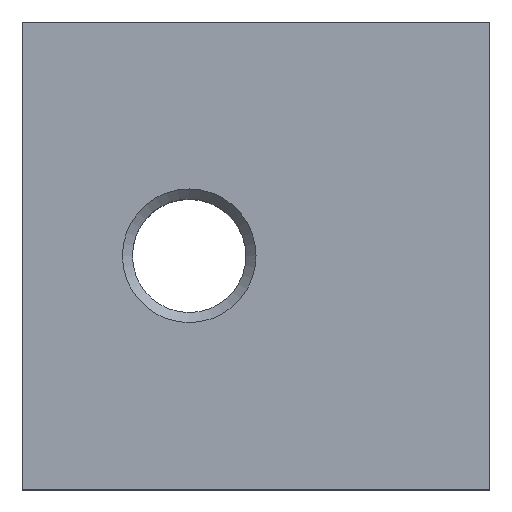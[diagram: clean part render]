
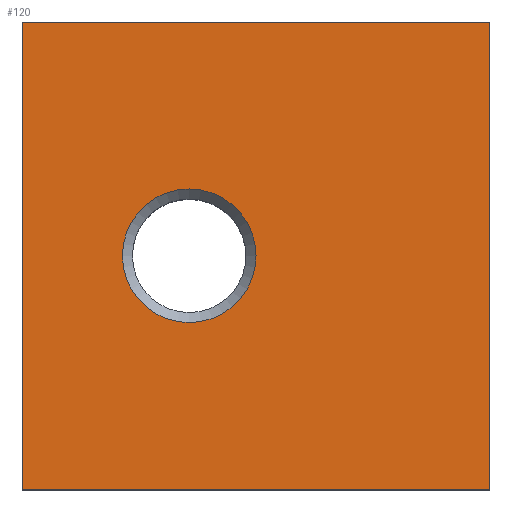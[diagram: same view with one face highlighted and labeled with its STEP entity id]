
A CAD part, top view. The second image highlights one B-rep face of the part: STEP entity #120.
In plain terms, the highlighted planar face has unit normal (0, 0, 1).
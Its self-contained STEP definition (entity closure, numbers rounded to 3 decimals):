
#120=ADVANCED_FACE('',(#165,#166),#135,.T.);
#135=PLANE('',#326);
#141=LINE('',#435,#153);
#142=LINE('',#438,#154);
#143=LINE('',#440,#155);
#144=LINE('',#442,#156);
#153=VECTOR('',#366,1.);
#154=VECTOR('',#367,1.);
#155=VECTOR('',#368,1.);
#156=VECTOR('',#369,1.);
#165=FACE_BOUND('',#190,.T.);
#166=FACE_BOUND('',#191,.T.);
#190=EDGE_LOOP('',(#216));
#191=EDGE_LOOP('',(#217,#218,#219,#220));
#216=ORIENTED_EDGE('',*,*,#280,.T.);
#217=ORIENTED_EDGE('',*,*,#281,.F.);
#218=ORIENTED_EDGE('',*,*,#282,.F.);
#219=ORIENTED_EDGE('',*,*,#283,.F.);
#220=ORIENTED_EDGE('',*,*,#284,.F.);
#260=VERTEX_POINT('',#434);
#261=VERTEX_POINT('',#436);
#262=VERTEX_POINT('',#437);
#263=VERTEX_POINT('',#439);
#264=VERTEX_POINT('',#441);
#280=EDGE_CURVE('',#260,#260,#308,.T.);
#281=EDGE_CURVE('',#261,#262,#141,.T.);
#282=EDGE_CURVE('',#263,#261,#142,.T.);
#283=EDGE_CURVE('',#264,#263,#143,.T.);
#284=EDGE_CURVE('',#262,#264,#144,.T.);
#308=CIRCLE('',#325,5.);
#325=AXIS2_PLACEMENT_3D('',#433,#364,#365);
#326=AXIS2_PLACEMENT_3D('',#443,#370,#371);
#364=DIRECTION('',(0.,0.,-1.));
#365=DIRECTION('',(1.,0.,0.));
#366=DIRECTION('',(-1.,0.,0.));
#367=DIRECTION('',(0.,-1.,0.));
#368=DIRECTION('',(1.,0.,0.));
#369=DIRECTION('',(0.,1.,0.));
#370=DIRECTION('',(0.,0.,1.));
#371=DIRECTION('',(1.,0.,0.));
#433=CARTESIAN_POINT('',(12.5,17.5,20.));
#434=CARTESIAN_POINT('',(17.5,17.5,20.));
#435=CARTESIAN_POINT('',(17.5,0.,20.));
#436=CARTESIAN_POINT('',(35.,0.,20.));
#437=CARTESIAN_POINT('',(0.,0.,20.));
#438=CARTESIAN_POINT('',(35.,17.5,20.));
#439=CARTESIAN_POINT('',(35.,35.,20.));
#440=CARTESIAN_POINT('',(17.5,35.,20.));
#441=CARTESIAN_POINT('',(0.,35.,20.));
#442=CARTESIAN_POINT('',(0.,17.5,20.));
#443=CARTESIAN_POINT('',(17.5,17.5,20.));
